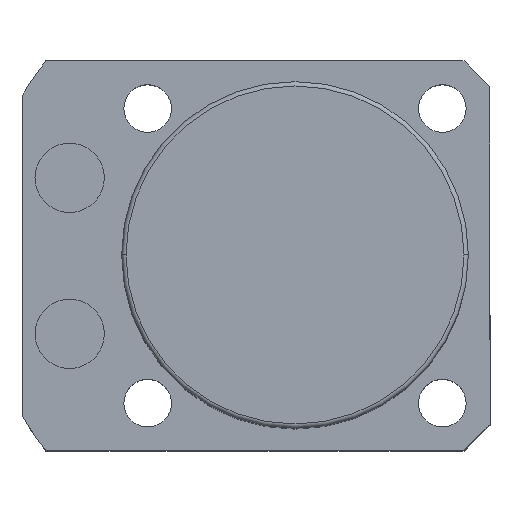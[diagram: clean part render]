
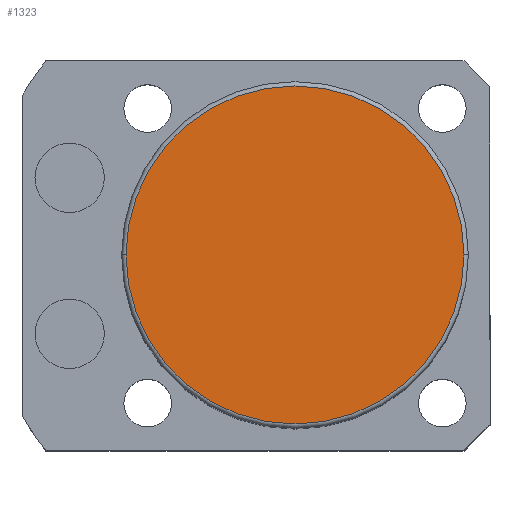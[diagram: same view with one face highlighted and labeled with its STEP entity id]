
A CAD part, top view. The second image highlights one B-rep face of the part: STEP entity #1323.
In plain terms, the highlighted planar face has unit normal (0, 0, 1).
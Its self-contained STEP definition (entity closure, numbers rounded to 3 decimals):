
#35 = CARTESIAN_POINT ( 'NONE',  ( 19.5, 0., 68.5 ) ) ;
#209 = CARTESIAN_POINT ( 'NONE',  ( 0., 0., 68.5 ) ) ;
#251 = CARTESIAN_POINT ( 'NONE',  ( -19.5, 0., 68.5 ) ) ;
#304 = ORIENTED_EDGE ( 'NONE', *, *, #934, .T. ) ;
#378 = ORIENTED_EDGE ( 'NONE', *, *, #2424, .T. ) ;
#541 = AXIS2_PLACEMENT_3D ( 'NONE', #1986, #2193, #2394 ) ;
#612 = VERTEX_POINT ( 'NONE', #251 ) ;
#657 = CIRCLE ( 'NONE', #1511, 19.5 ) ;
#773 = DIRECTION ( 'NONE',  ( 1., 0., 0. ) ) ;
#779 = DIRECTION ( 'NONE',  ( 0., 0., 1. ) ) ;
#934 = EDGE_CURVE ( 'NONE', #612, #1051, #657, .T. ) ;
#1013 = CARTESIAN_POINT ( 'NONE',  ( 0., 0., 68.5 ) ) ;
#1051 = VERTEX_POINT ( 'NONE', #35 ) ;
#1114 = CIRCLE ( 'NONE', #541, 19.5 ) ;
#1323 = ADVANCED_FACE ( 'NONE', ( #1696 ), #2245, .T. ) ;
#1511 = AXIS2_PLACEMENT_3D ( 'NONE', #209, #1894, #2722 ) ;
#1696 = FACE_OUTER_BOUND ( 'NONE', #2680, .T. ) ;
#1894 = DIRECTION ( 'NONE',  ( 0., 0., 1. ) ) ;
#1986 = CARTESIAN_POINT ( 'NONE',  ( 0., 0., 68.5 ) ) ;
#2004 = AXIS2_PLACEMENT_3D ( 'NONE', #1013, #779, #773 ) ;
#2193 = DIRECTION ( 'NONE',  ( 0., 0., 1. ) ) ;
#2245 = PLANE ( 'NONE',  #2004 ) ;
#2394 = DIRECTION ( 'NONE',  ( 1., 0., 0. ) ) ;
#2424 = EDGE_CURVE ( 'NONE', #1051, #612, #1114, .T. ) ;
#2680 = EDGE_LOOP ( 'NONE', ( #378, #304 ) ) ;
#2722 = DIRECTION ( 'NONE',  ( 1., 0., 0. ) ) ;
